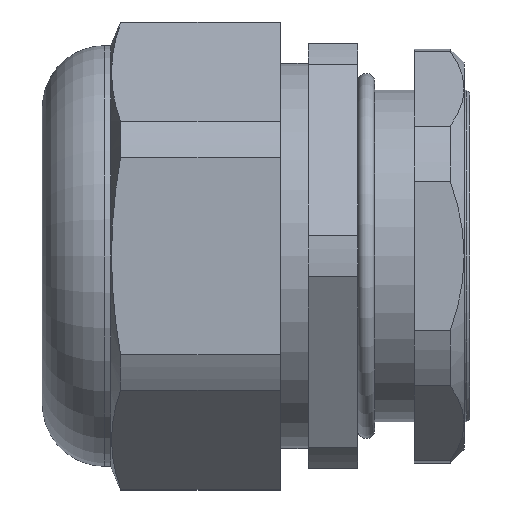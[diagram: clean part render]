
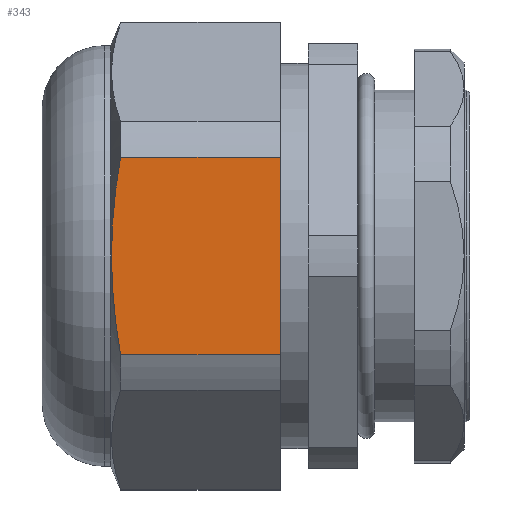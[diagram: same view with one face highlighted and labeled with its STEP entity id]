
A CAD part, left-side view. The second image highlights one B-rep face of the part: STEP entity #343.
In plain terms, the highlighted planar face has unit normal (-1, 0, 0).
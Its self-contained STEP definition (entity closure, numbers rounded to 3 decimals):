
#143 = EDGE_CURVE ( 'NONE', #895, #896, #1094, .T. ) ;
#294 = EDGE_CURVE ( 'NONE', #951, #896, #1632, .T. ) ;
#296 = EDGE_CURVE ( 'NONE', #895, #839, #1638, .T. ) ;
#343 = ADVANCED_FACE ( 'NONE', ( #1838 ), #2041, .T. ) ;
#377 = EDGE_CURVE ( 'NONE', #839, #951, #2473, .T. ) ;
#412 = VECTOR ( 'NONE', #1096, 1000. ) ;
#839 = VERTEX_POINT ( 'NONE', #2206 ) ;
#895 = VERTEX_POINT ( 'NONE', #2262 ) ;
#896 = VERTEX_POINT ( 'NONE', #2263 ) ;
#951 = VERTEX_POINT ( 'NONE', #2318 ) ;
#968 = ORIENTED_EDGE ( 'NONE', *, *, #143, .F. ) ;
#969 = ORIENTED_EDGE ( 'NONE', *, *, #296, .T. ) ;
#970 = ORIENTED_EDGE ( 'NONE', *, *, #377, .T. ) ;
#971 = ORIENTED_EDGE ( 'NONE', *, *, #294, .T. ) ;
#1094 = LINE ( 'NONE', #1095, #412 ) ;
#1095 = CARTESIAN_POINT ( 'NONE',  ( -38.125, 34., -22.011 ) ) ;
#1096 = DIRECTION ( 'NONE',  ( 0., 0., -1. ) ) ;
#1632 = LINE ( 'NONE', #1633, #1919 ) ;
#1633 = CARTESIAN_POINT ( 'NONE',  ( -38.125, 0., -17.739 ) ) ;
#1634 = DIRECTION ( 'NONE',  ( 0., -1., 0. ) ) ;
#1638 = LINE ( 'NONE', #1639, #1814 ) ;
#1639 = CARTESIAN_POINT ( 'NONE',  ( -38.125, 0., 17.739 ) ) ;
#1640 = DIRECTION ( 'NONE',  ( 0., 1., 0. ) ) ;
#1814 = VECTOR ( 'NONE', #1640, 1000. ) ;
#1835 = AXIS2_PLACEMENT_3D ( 'NONE', #2042, #2043, #2044 ) ;
#1838 = FACE_OUTER_BOUND ( 'NONE', #2407, .T. ) ;
#1919 = VECTOR ( 'NONE', #1634, 1000. ) ;
#2041 = PLANE ( 'NONE',  #1835 ) ;
#2042 = CARTESIAN_POINT ( 'NONE',  ( -38.125, -88.975, -22.011 ) ) ;
#2043 = DIRECTION ( 'NONE',  ( -1., 0., 0. ) ) ;
#2044 = DIRECTION ( 'NONE',  ( 0., 0., 1. ) ) ;
#2148 = CARTESIAN_POINT ( 'NONE',  ( -38.125, 62.74, 17.739 ) ) ;
#2149 = CARTESIAN_POINT ( 'NONE',  ( -38.125, 63.254, 14.795 ) ) ;
#2150 = CARTESIAN_POINT ( 'NONE',  ( -38.125, 63.663, 11.847 ) ) ;
#2151 = CARTESIAN_POINT ( 'NONE',  ( -38.125, 64.219, 5.945 ) ) ;
#2152 = CARTESIAN_POINT ( 'NONE',  ( -38.125, 64.364, 2.99 ) ) ;
#2153 = CARTESIAN_POINT ( 'NONE',  ( -38.125, 64.366, -2.926 ) ) ;
#2154 = CARTESIAN_POINT ( 'NONE',  ( -38.125, 64.223, -5.888 ) ) ;
#2155 = CARTESIAN_POINT ( 'NONE',  ( -38.125, 63.806, -10.336 ) ) ;
#2156 = CARTESIAN_POINT ( 'NONE',  ( -38.125, 63.634, -11.82 ) ) ;
#2157 = CARTESIAN_POINT ( 'NONE',  ( -38.125, 63.229, -14.789 ) ) ;
#2158 = CARTESIAN_POINT ( 'NONE',  ( -38.125, 62.997, -16.268 ) ) ;
#2159 = CARTESIAN_POINT ( 'NONE',  ( -38.125, 62.74, -17.739 ) ) ;
#2206 = CARTESIAN_POINT ( 'NONE',  ( -38.125, 62.74, 17.739 ) ) ;
#2262 = CARTESIAN_POINT ( 'NONE',  ( -38.125, 34., 17.739 ) ) ;
#2263 = CARTESIAN_POINT ( 'NONE',  ( -38.125, 34., -17.739 ) ) ;
#2318 = CARTESIAN_POINT ( 'NONE',  ( -38.125, 62.74, -17.739 ) ) ;
#2407 = EDGE_LOOP ( 'NONE', ( #969, #970, #971, #968 ) ) ;
#2473 = B_SPLINE_CURVE_WITH_KNOTS ( 'NONE', 3,
 ( #2148, #2149, #2150, #2151, #2152, #2153, #2154, #2155, #2156, #2157, #2158, #2159 ),
 .UNSPECIFIED., .F., .F.,
 ( 4, 2, 2, 2, 2, 4 ),
 ( 0.089, 0.098, 0.107, 0.116, 0.12, 0.124 ),
 .UNSPECIFIED. ) ;
